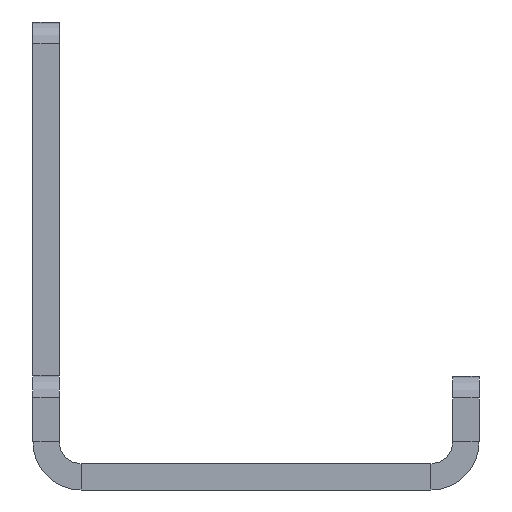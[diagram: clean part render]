
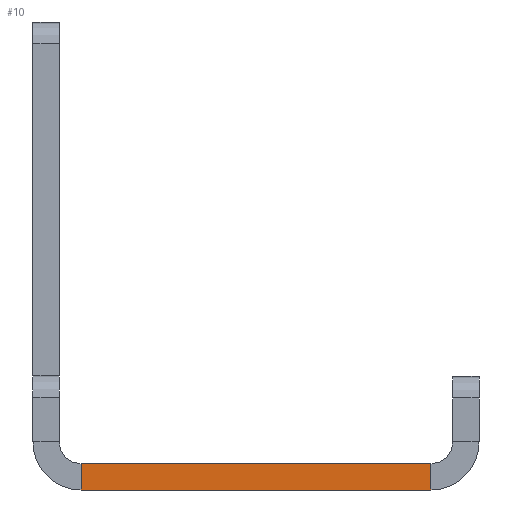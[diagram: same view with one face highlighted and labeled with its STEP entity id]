
A CAD part, left-side view. The second image highlights one B-rep face of the part: STEP entity #10.
In plain terms, the highlighted planar face has unit normal (-1, 0, 0).
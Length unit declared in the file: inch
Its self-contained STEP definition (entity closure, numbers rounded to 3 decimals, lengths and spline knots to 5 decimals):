
#10 = ADVANCED_FACE ( 'NONE', ( #1322 ), #24, .T. ) ;
#24 = PLANE ( 'NONE',  #1475 ) ;
#98 = CARTESIAN_POINT ( 'NONE',  ( -35.9375, 0.132, 0. ) ) ;
#99 = CARTESIAN_POINT ( 'NONE',  ( -35.9375, 0., 0.072 ) ) ;
#105 = CARTESIAN_POINT ( 'NONE',  ( -35.9375, 1.0924, 0. ) ) ;
#112 = VERTEX_POINT ( 'NONE', #105 ) ;
#149 = CARTESIAN_POINT ( 'NONE',  ( -35.9375, 0.132, 0.072 ) ) ;
#152 = CARTESIAN_POINT ( 'NONE',  ( -35.9375, 1.0924, 0.072 ) ) ;
#193 = DIRECTION ( 'NONE',  ( 0., 1., 0. ) ) ;
#205 = CARTESIAN_POINT ( 'NONE',  ( -35.9375, 0.132, 0. ) ) ;
#211 = DIRECTION ( 'NONE',  ( 0., 0., 1. ) ) ;
#217 = CARTESIAN_POINT ( 'NONE',  ( -35.9375, 0., 0. ) ) ;
#230 = CARTESIAN_POINT ( 'NONE',  ( -35.9375, 1.0924, 0.072 ) ) ;
#295 = VERTEX_POINT ( 'NONE', #205 ) ;
#322 = DIRECTION ( 'NONE',  ( 0., 1., 0. ) ) ;
#339 = VERTEX_POINT ( 'NONE', #230 ) ;
#393 = CARTESIAN_POINT ( 'NONE',  ( -35.9375, 0.072, 0.132 ) ) ;
#425 = DIRECTION ( 'NONE',  ( -1., 0., 0. ) ) ;
#449 = VERTEX_POINT ( 'NONE', #149 ) ;
#493 = DIRECTION ( 'NONE',  ( 0., 0., -1. ) ) ;
#578 = DIRECTION ( 'NONE',  ( 0., 0., 1. ) ) ;
#686 = EDGE_LOOP ( 'NONE', ( #1110, #1132, #1158, #1114 ) ) ;
#811 = LINE ( 'NONE', #152, #814 ) ;
#814 = VECTOR ( 'NONE', #493, 39.37008 ) ;
#820 = LINE ( 'NONE', #99, #827 ) ;
#824 = VECTOR ( 'NONE', #211, 39.37008 ) ;
#827 = VECTOR ( 'NONE', #193, 39.37008 ) ;
#829 = LINE ( 'NONE', #98, #824 ) ;
#833 = LINE ( 'NONE', #217, #835 ) ;
#835 = VECTOR ( 'NONE', #322, 39.37008 ) ;
#1110 = ORIENTED_EDGE ( 'NONE', *, *, #1392, .F. ) ;
#1114 = ORIENTED_EDGE ( 'NONE', *, *, #1379, .T. ) ;
#1132 = ORIENTED_EDGE ( 'NONE', *, *, #1388, .T. ) ;
#1158 = ORIENTED_EDGE ( 'NONE', *, *, #1386, .T. ) ;
#1322 = FACE_OUTER_BOUND ( 'NONE', #686, .T. ) ;
#1379 = EDGE_CURVE ( 'NONE', #339, #112, #811, .T. ) ;
#1386 = EDGE_CURVE ( 'NONE', #449, #339, #820, .T. ) ;
#1388 = EDGE_CURVE ( 'NONE', #295, #449, #829, .T. ) ;
#1392 = EDGE_CURVE ( 'NONE', #295, #112, #833, .T. ) ;
#1475 = AXIS2_PLACEMENT_3D ( 'NONE', #393, #425, #578 ) ;
